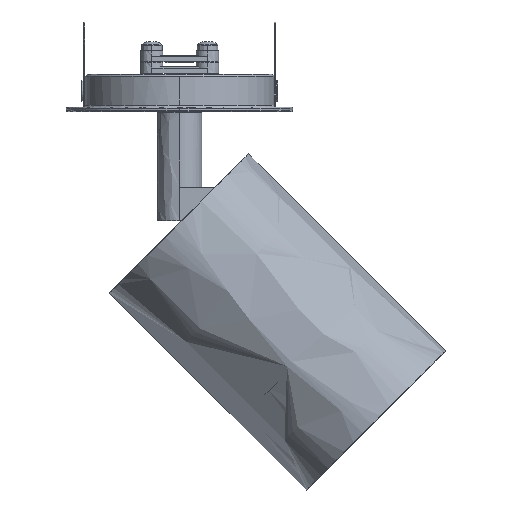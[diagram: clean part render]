
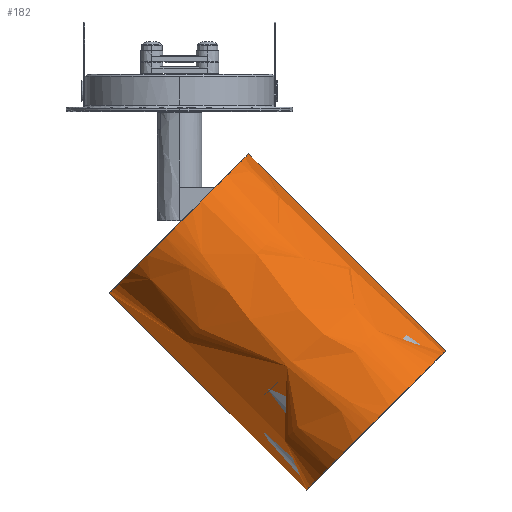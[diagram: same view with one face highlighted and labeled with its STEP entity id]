
A CAD part, front view. The second image highlights one B-rep face of the part: STEP entity #182.
In plain terms, the highlighted free-form (B-spline) face has degree [2, 1] with [9, 2] control points.
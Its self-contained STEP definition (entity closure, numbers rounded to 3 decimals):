
#182=ADVANCED_FACE('',(#1070),#13647,.T.);
#1070=FACE_OUTER_BOUND('',#1958,.T.);
#1958=EDGE_LOOP('',(#2944,#2945,#2946,#2947,#2948,#2949,#2950));
#2944=ORIENTED_EDGE('',*,*,#7372,.T.);
#2945=ORIENTED_EDGE('',*,*,#7367,.T.);
#2946=ORIENTED_EDGE('',*,*,#7363,.T.);
#2947=ORIENTED_EDGE('',*,*,#7366,.T.);
#2948=ORIENTED_EDGE('',*,*,#7368,.T.);
#2949=ORIENTED_EDGE('',*,*,#7373,.T.);
#2950=ORIENTED_EDGE('',*,*,#7369,.T.);
#7363=EDGE_CURVE('',#11803,#11802,#10497,.T.);
#7366=EDGE_CURVE('',#11802,#11806,#10500,.T.);
#7367=EDGE_CURVE('',#11808,#11803,#10501,.T.);
#7368=EDGE_CURVE('',#11806,#11809,#10502,.T.);
#7369=EDGE_CURVE('',#11810,#11807,#10503,.T.);
#7372=EDGE_CURVE('',#11807,#11808,#9583,.T.);
#7373=EDGE_CURVE('',#11809,#11810,#9584,.T.);
#9583=(
BOUNDED_CURVE()
B_SPLINE_CURVE(2,(#16817,#16818,#16819,#16820,#16821),.UNSPECIFIED.,.F.,
 .F.)
B_SPLINE_CURVE_WITH_KNOTS((3,2,3),(0.,41.626,83.252),
 .UNSPECIFIED.)
CURVE()
GEOMETRIC_REPRESENTATION_ITEM()
RATIONAL_B_SPLINE_CURVE((1.,0.707,1.,0.707,1.))
REPRESENTATION_ITEM('')
);
#9584=(
BOUNDED_CURVE()
B_SPLINE_CURVE(2,(#16822,#16823,#16824,#16825,#16826),.UNSPECIFIED.,.F.,
 .F.)
B_SPLINE_CURVE_WITH_KNOTS((3,2,3),(0.,41.626,83.252),
 .UNSPECIFIED.)
CURVE()
GEOMETRIC_REPRESENTATION_ITEM()
RATIONAL_B_SPLINE_CURVE((1.,0.707,1.,0.707,1.))
REPRESENTATION_ITEM('')
);
#10497=B_SPLINE_CURVE_WITH_KNOTS('',3,(#16743,#16744,#16745,#16746,#16747,
#16748,#16749,#16750,#16751,#16752,#16753,#16754,#16755,#16756),
 .UNSPECIFIED.,.F.,.F.,(4,2,2,2,2,2,4),(0.,0.315,0.631,
0.946,1.262,1.893,2.524),
 .UNSPECIFIED.);
#10500=B_SPLINE_CURVE_WITH_KNOTS('',3,(#16783,#16784,#16785,#16786,#16787,
#16788,#16789,#16790,#16791,#16792,#16793,#16794,#16795,#16796,#16797,#16798,
#16799,#16800),.UNSPECIFIED.,.F.,.F.,(4,2,2,2,2,2,2,2,4),(-2.518,
-2.203,-1.888,-1.574,-1.259,
-0.944,-0.629,-0.315,0.),
 .UNSPECIFIED.);
#10501=B_SPLINE_CURVE_WITH_KNOTS('',1,(#16801,#16802),.UNSPECIFIED.,.F.,
 .F.,(2,2),(0.,67.4),.UNSPECIFIED.);
#10502=B_SPLINE_CURVE_WITH_KNOTS('',1,(#16803,#16804),.UNSPECIFIED.,.F.,
 .F.,(2,2),(0.,4.4),.UNSPECIFIED.);
#10503=B_SPLINE_CURVE_WITH_KNOTS('',1,(#16805,#16806),.UNSPECIFIED.,.F.,
 .F.,(2,2),(0.,75.),.UNSPECIFIED.);
#11802=VERTEX_POINT('',#16720);
#11803=VERTEX_POINT('',#16721);
#11806=VERTEX_POINT('',#16724);
#11807=VERTEX_POINT('',#16725);
#11808=VERTEX_POINT('',#16726);
#11809=VERTEX_POINT('',#16727);
#11810=VERTEX_POINT('',#16728);
#13647=(
BOUNDED_SURFACE()
B_SPLINE_SURFACE(2,1,((#15011,#15012),(#15013,#15014),(#15015,#15016),(#15017,
#15018),(#15019,#15020),(#15021,#15022),(#15023,#15024),(#15025,#15026),
(#15027,#15028)),.UNSPECIFIED.,.T.,.F.,.F.)
B_SPLINE_SURFACE_WITH_KNOTS((3,2,2,2,3),(2,2),(0.,41.626,83.252,
124.878,166.504),(0.,90.),.UNSPECIFIED.)
GEOMETRIC_REPRESENTATION_ITEM()
RATIONAL_B_SPLINE_SURFACE(((1.,1.),(0.707,0.707),
(1.,1.),(0.707,0.707),(1.,1.),(0.707,
0.707),(1.,1.),(0.707,0.707),(1.,1.)))
REPRESENTATION_ITEM('')
SURFACE()
);
#15011=CARTESIAN_POINT('',(58.144,-13.6,-49.565));
#15012=CARTESIAN_POINT('',(-5.496,-13.6,14.075));
#15013=CARTESIAN_POINT('',(39.405,-13.6,-68.303));
#15014=CARTESIAN_POINT('',(-24.234,-13.6,-4.663));
#15015=CARTESIAN_POINT('',(39.405,-40.1,-68.303));
#15016=CARTESIAN_POINT('',(-24.234,-40.1,-4.663));
#15017=CARTESIAN_POINT('',(39.405,-66.6,-68.303));
#15018=CARTESIAN_POINT('',(-24.234,-66.6,-4.663));
#15019=CARTESIAN_POINT('',(58.144,-66.6,-49.565));
#15020=CARTESIAN_POINT('',(-5.496,-66.6,14.075));
#15021=CARTESIAN_POINT('',(76.882,-66.6,-30.826));
#15022=CARTESIAN_POINT('',(13.242,-66.6,32.813));
#15023=CARTESIAN_POINT('',(76.882,-40.1,-30.826));
#15024=CARTESIAN_POINT('',(13.242,-40.1,32.813));
#15025=CARTESIAN_POINT('',(76.882,-13.6,-30.826));
#15026=CARTESIAN_POINT('',(13.242,-13.6,32.813));
#15027=CARTESIAN_POINT('',(58.144,-13.6,-49.565));
#15028=CARTESIAN_POINT('',(-5.496,-13.6,14.075));
#16720=CARTESIAN_POINT('',(22.754,-41.7,23.233));
#16721=CARTESIAN_POINT('',(23.92,-40.1,22.136));
#16724=CARTESIAN_POINT('',(21.657,-40.1,24.399));
#16725=CARTESIAN_POINT('',(34.102,-40.1,-63.));
#16726=CARTESIAN_POINT('',(71.579,-40.1,-25.523));
#16727=CARTESIAN_POINT('',(18.546,-40.1,27.51));
#16728=CARTESIAN_POINT('',(-18.931,-40.1,-9.967));
#16743=CARTESIAN_POINT('',(23.92,-40.1,22.136));
#16744=CARTESIAN_POINT('',(23.92,-40.205,22.136));
#16745=CARTESIAN_POINT('',(23.912,-40.309,22.143));
#16746=CARTESIAN_POINT('',(23.882,-40.514,22.17));
#16747=CARTESIAN_POINT('',(23.858,-40.616,22.19));
#16748=CARTESIAN_POINT('',(23.799,-40.809,22.244));
#16749=CARTESIAN_POINT('',(23.762,-40.901,22.277));
#16750=CARTESIAN_POINT('',(23.676,-41.075,22.355));
#16751=CARTESIAN_POINT('',(23.625,-41.158,22.401));
#16752=CARTESIAN_POINT('',(23.462,-41.379,22.55));
#16753=CARTESIAN_POINT('',(23.331,-41.498,22.672));
#16754=CARTESIAN_POINT('',(23.053,-41.658,22.938));
#16755=CARTESIAN_POINT('',(22.902,-41.7,23.085));
#16756=CARTESIAN_POINT('',(22.754,-41.7,23.233));
#16783=CARTESIAN_POINT('',(22.754,-41.7,23.233));
#16784=CARTESIAN_POINT('',(22.68,-41.7,23.307));
#16785=CARTESIAN_POINT('',(22.606,-41.689,23.382));
#16786=CARTESIAN_POINT('',(22.463,-41.648,23.529));
#16787=CARTESIAN_POINT('',(22.393,-41.618,23.601));
#16788=CARTESIAN_POINT('',(22.259,-41.538,23.741));
#16789=CARTESIAN_POINT('',(22.195,-41.488,23.809));
#16790=CARTESIAN_POINT('',(22.077,-41.372,23.936));
#16791=CARTESIAN_POINT('',(22.022,-41.306,23.995));
#16792=CARTESIAN_POINT('',(21.921,-41.156,24.105));
#16793=CARTESIAN_POINT('',(21.876,-41.076,24.154));
#16794=CARTESIAN_POINT('',(21.798,-40.902,24.24));
#16795=CARTESIAN_POINT('',(21.765,-40.809,24.278));
#16796=CARTESIAN_POINT('',(21.711,-40.615,24.338));
#16797=CARTESIAN_POINT('',(21.691,-40.515,24.36));
#16798=CARTESIAN_POINT('',(21.664,-40.31,24.391));
#16799=CARTESIAN_POINT('',(21.657,-40.204,24.399));
#16800=CARTESIAN_POINT('',(21.657,-40.1,24.399));
#16801=CARTESIAN_POINT('',(71.579,-40.1,-25.523));
#16802=CARTESIAN_POINT('',(23.92,-40.1,22.136));
#16803=CARTESIAN_POINT('',(21.657,-40.1,24.399));
#16804=CARTESIAN_POINT('',(18.546,-40.1,27.51));
#16805=CARTESIAN_POINT('',(-18.931,-40.1,-9.967));
#16806=CARTESIAN_POINT('',(34.102,-40.1,-63.));
#16817=CARTESIAN_POINT('',(34.102,-40.1,-63.));
#16818=CARTESIAN_POINT('',(34.102,-66.6,-63.));
#16819=CARTESIAN_POINT('',(52.84,-66.6,-44.261));
#16820=CARTESIAN_POINT('',(71.579,-66.6,-25.523));
#16821=CARTESIAN_POINT('',(71.579,-40.1,-25.523));
#16822=CARTESIAN_POINT('',(18.546,-40.1,27.51));
#16823=CARTESIAN_POINT('',(18.546,-66.6,27.51));
#16824=CARTESIAN_POINT('',(-0.193,-66.6,8.772));
#16825=CARTESIAN_POINT('',(-18.931,-66.6,-9.967));
#16826=CARTESIAN_POINT('',(-18.931,-40.1,-9.967));
